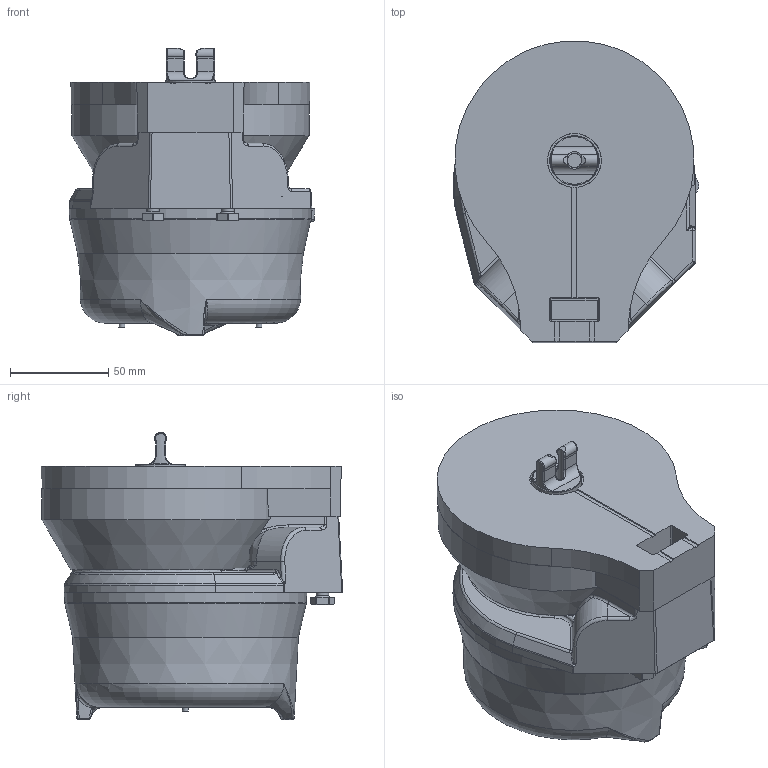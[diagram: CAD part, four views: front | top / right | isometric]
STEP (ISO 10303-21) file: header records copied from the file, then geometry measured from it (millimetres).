
FILE_DESCRIPTION(/* description */ (''),/* implementation_level */ '2;1');
FILE_NAME(/* name */ 'C:\Users\ffmbeskema\OneDrive - Metso\Desktop\Quartz QX QN QG H-Clip Model.stp',/* time_stamp */ '2019-01-08T15:12:42-06:00',/* author */ ('ffmbeskema'),/* organization */ (''),/* preprocessor_version */ 'ST-DEVELOPER v16.1',/* originating_system */ 'Autodesk Inventor 2016',/* authorisation */ '');
FILE_SCHEMA (('AUTOMOTIVE_DESIGN { 1 0 10303 214 3 1 1 }'));
Length unit declared in the file: inch
Products named in the file (1): Quartz QX QN QG H-Clip Model
Bounding box: 125.31 x 153.67 x 146.38 mm (x, y, z)
Surface area: 142656.1 mm2 (no closed solid volume)
Topology: 0 solids, 14 shells, 225 faces, 736 edges, 477 vertices
Faces by surface type: bspline 66, plane 65, cylinder 51, torus 22, cone 18, sphere 3
Full cylindrical faces by diameter (mm): 3.251 x1, 6.35 x2, 7.239 x1, 25.273 x1
Entity records: 10954 total; most frequent: CARTESIAN_POINT 5084, ORIENTED_EDGE 1088, DIRECTION 1072, EDGE_CURVE 692, VERTEX_POINT 462, AXIS2_PLACEMENT_3D 422, EDGE_LOOP 243, LINE 228
